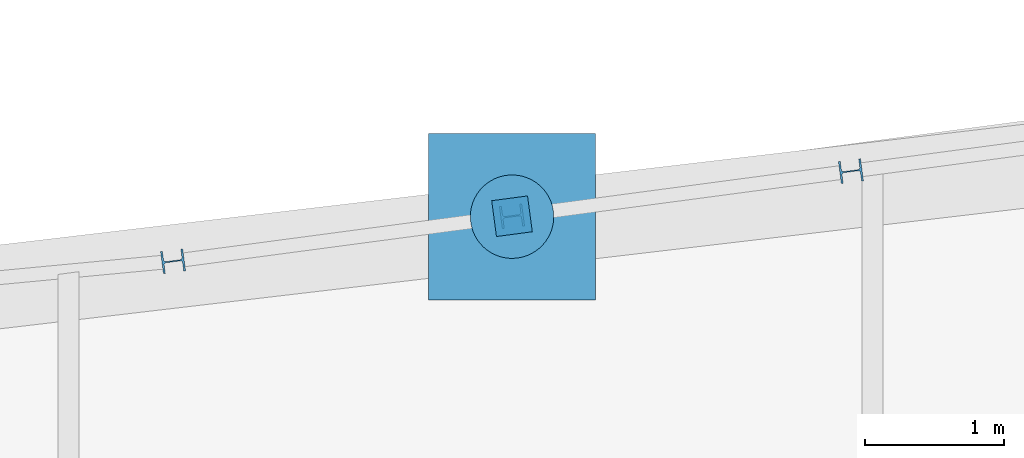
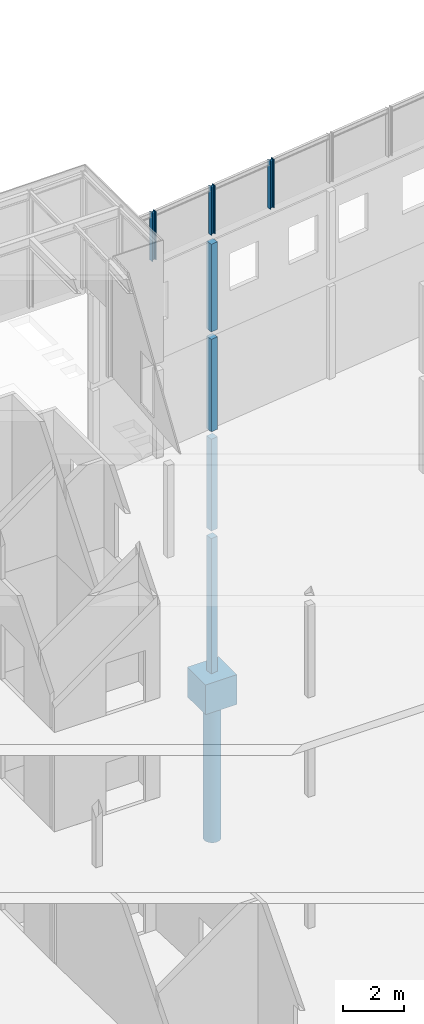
# One storey, part 51 of 82: 9 columns.
"""IFC2X3 building model written with IfcOpenShell, lengths in millimetres."""

from ifc_helpers import new_model, si_unit, frame, frame_2d, origin_with_axes, place, context, subcontext, project, spatial, rectangle, circle, i_section, extrude, material, type_object, element, save


model = new_model("IFC2X3")

# Units and contexts
model_context = context("Model", 3, precision=1e-05, world=origin_with_axes())
body_context = subcontext(model_context, "Body", "Model", "MODEL_VIEW")
ifc_project = project(units=[si_unit("LENGTHUNIT", "METRE", prefix="MILLI"), si_unit("AREAUNIT", "SQUARE_METRE"), si_unit("VOLUMEUNIT", "CUBIC_METRE"), si_unit("MASSUNIT", "GRAM", prefix="KILO"), si_unit("TIMEUNIT", "SECOND"), si_unit("PLANEANGLEUNIT", "RADIAN"), si_unit("SOLIDANGLEUNIT", "STERADIAN"), si_unit("THERMODYNAMICTEMPERATUREUNIT", "DEGREE_CELSIUS"), si_unit("LUMINOUSINTENSITYUNIT", "LUMEN")], contexts=[model_context])

# Site, building, storey
site_placement = place(None, origin_with_axes())
site = spatial("IfcSite", under=ifc_project, at=site_placement, Name="Undefined", CompositionType="ELEMENT")
building_placement = place(site_placement, origin_with_axes())
building = spatial("IfcBuilding", under=site, at=building_placement, Name="Undefined", CompositionType="ELEMENT")
storey_placement = place(building_placement, origin_with_axes())
storey = spatial("IfcBuildingStorey", under=building, at=storey_placement, Name="Undefined", CompositionType="ELEMENT", Elevation=0.0)

# Columns
ifc_material_1 = material(Name="CONCRETE/C25/30")
column_type_1 = type_object("IfcColumnType", Name="260*260", PredefinedType="NOTDEFINED")
column_1_placement = place(storey_placement, frame((42224.573477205, 24191.857874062, 13330.0), z_axis=(0.0, 0.0, 1.0), x_axis=(1.0, 0.0, 0.0)))
element("IfcColumn", 1, at=column_1_placement, inside=storey, type_object=column_type_1, material=ifc_material_1, Name="POTEAU", ObjectType="260*260", context=body_context, shape_type="SweptSolid", body=[
    extrude(rectangle(XDim=260.0, YDim=260.0, at=frame_2d((5.17284206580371e-08, 4.49290382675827e-10), x_axis=(1.0, 0.0))), frame((0.0, 0.000229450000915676, 3530.0), z_axis=(0.0, -6.50000002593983e-08, -0.999999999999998), x_axis=(-0.131726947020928, 0.991286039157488, -6.44335928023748e-08)), (0.0, 0.0, 1.0), 3530.0),
])
column_2_placement = place(storey_placement, frame((42224.573477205, 24191.857874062, 9305.0), z_axis=(0.0, 0.0, 1.0), x_axis=(1.0, 0.0, 0.0)))
element("IfcColumn", 2, at=column_2_placement, inside=storey, type_object=column_type_1, material=ifc_material_1, Name="POTEAU", ObjectType="260*260", context=body_context, shape_type="SweptSolid", body=[
    extrude(rectangle(XDim=260.0, YDim=260.0, at=frame_2d((5.17284206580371e-08, 4.49290382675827e-10), x_axis=(1.0, 0.0))), frame((0.0, 0.000227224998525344, 3725.0), z_axis=(0.0, -6.50000002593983e-08, -0.999999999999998), x_axis=(-0.131726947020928, 0.991286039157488, -6.44335928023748e-08)), (0.0, 0.0, 1.0), 3725.0),
])
column_3_placement = place(storey_placement, frame((42224.573477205, 24191.857874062, 5300.0), z_axis=(0.0, 0.0, 1.0), x_axis=(1.0, 0.0, 0.0)))
element("IfcColumn", 3, at=column_3_placement, inside=storey, type_object=column_type_1, material=ifc_material_1, Name="POTEAU", ObjectType="260*260", context=body_context, shape_type="SweptSolid", body=[
    extrude(rectangle(XDim=260.0, YDim=260.0, at=frame_2d((5.17284206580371e-08, 4.49290382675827e-10), x_axis=(1.0, 0.0))), frame((0.0, 0.000229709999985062, 3705.0), z_axis=(0.0, -6.50000002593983e-08, -0.999999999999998), x_axis=(-0.131726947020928, 0.991286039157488, -6.44335928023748e-08)), (0.0, 0.0, 1.0), 3705.0),
])
column_4_placement = place(storey_placement, frame((42224.573477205, 24191.857874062, -449.999023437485), z_axis=(0.0, 0.0, 1.0), x_axis=(1.0, 0.0, 0.0)))
element("IfcColumn", 4, at=column_4_placement, inside=storey, type_object=column_type_1, material=ifc_material_1, Name="POTEAU", ObjectType="260*260", context=body_context, shape_type="SweptSolid", body=[
    extrude(rectangle(XDim=260.0, YDim=260.0, at=frame_2d((5.17284206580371e-08, 4.49290382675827e-10), x_axis=(1.0, 0.0))), frame((0.0, 0.000228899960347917, 5449.99902343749), z_axis=(0.0, -6.50000002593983e-08, -0.999999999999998), x_axis=(-0.131726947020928, 0.991286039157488, -6.44335928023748e-08)), (0.0, 0.0, 1.0), 5450.0),
])
ifc_material_2 = material(Name="STEEL/S275JR")
column_type_2 = type_object("IfcColumnType", Name="HEB160", PredefinedType="NOTDEFINED")
for number, where, z_axis, x_axis, name in (
    (5, (42224.5734772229, 24191.8578740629, 17160.0), (0.0, 0.0, 1.0), (1.0, 0.0, 0.0), "POTEAU"),
    (6, (44661.8584822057, 24515.7426668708, 17160.0), (0.0, 0.0, 1.0), (1.0, 0.0, 0.0), "POTEAU"),
    (7, (39787.2860575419, 23867.9812900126, 17160.0), (0.0, 0.0, 1.0), (1.0, 0.0, 0.0), "POTEAU"),
):
    element("IfcColumn", number, at=place(storey_placement, frame(where, z_axis=z_axis, x_axis=x_axis)), inside=storey, type_object=column_type_2, material=ifc_material_2, Name=name, ObjectType="HEB160", context=body_context, shape_type="SweptSolid", body=[
        extrude(i_section(OverallWidth=160.0, OverallDepth=160.0, WebThickness=8.0, FlangeThickness=13.0, FilletRadius=15.0, at=frame_2d((5.17284206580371e-08, 4.49290382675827e-10), x_axis=(1.0, 0.0))), frame((0.0, 0.0, 1965.0), z_axis=(0.0, -6.50000002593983e-08, -0.999999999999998), x_axis=(0.131727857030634, -0.991285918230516, 0.0)), (0.0, 0.0, 1.0), 1965.0),
    ])
ifc_material_3 = material(Name="CONCRETE/C30/37")
column_type_3 = type_object("IfcColumnType", Name="1200*1200", PredefinedType="NOTDEFINED")
column_5_placement = place(storey_placement, frame((42225.0015835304, 24187.7455401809, -1650.0), z_axis=(0.0, 0.0, 1.0), x_axis=(1.0, 0.0, 0.0)))
element("IfcColumn", 8, at=column_5_placement, inside=storey, type_object=column_type_3, material=ifc_material_3, Name="SEMELLE", ObjectType="1200*1200", context=body_context, shape_type="SweptSolid", body=[
    extrude(rectangle(XDim=1200.0, YDim=1200.0, at=frame_2d((5.17284206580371e-08, 4.49290382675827e-10), x_axis=(1.0, 0.0))), frame((0.0, 0.0, 1200.0), z_axis=(0.0, -6.50000002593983e-08, -0.999999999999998), x_axis=(-1.0, 0.0, 0.0)), (0.0, 0.0, 1.0), 1200.0),
])
column_type_4 = type_object("IfcColumnType", Name="D600", PredefinedType="NOTDEFINED")
column_6_placement = place(storey_placement, frame((42224.9995086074, 24188.6643518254, -7175.0), z_axis=(0.0, 0.0, 1.0), x_axis=(1.0, 0.0, 0.0)))
element("IfcColumn", 9, at=column_6_placement, inside=storey, type_object=column_type_4, material=ifc_material_1, Name="PIEU", ObjectType="D600", context=body_context, shape_type="SweptSolid", body=[
    extrude(circle(Radius=300.0, at=frame_2d((5.17284206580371e-08, 4.49290382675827e-10), x_axis=(1.0, 0.0))), frame((0.0, 0.0, 5750.0), z_axis=(0.0, -6.50000002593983e-08, -0.999999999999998), x_axis=(-1.0, 0.0, 0.0)), (0.0, 0.0, 1.0), 5750.0),
])

save(model, "model.ifc")
